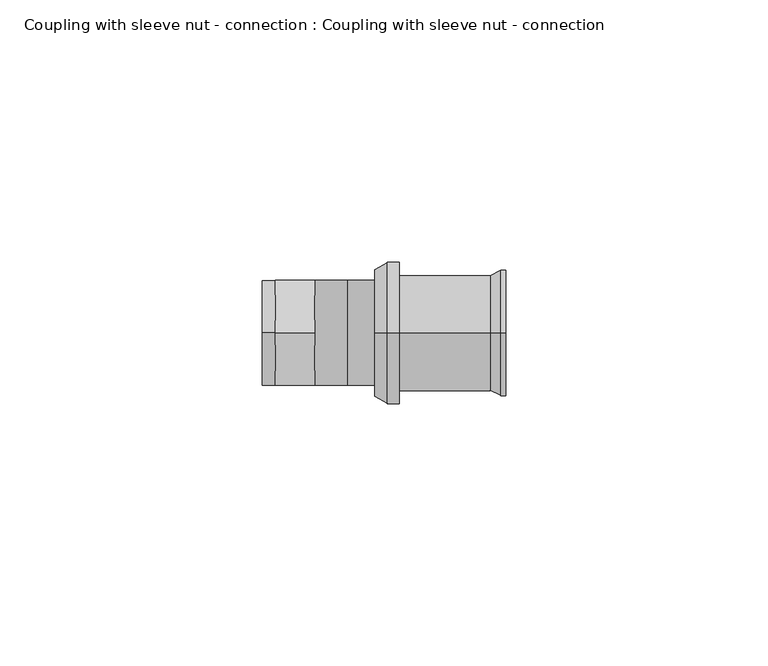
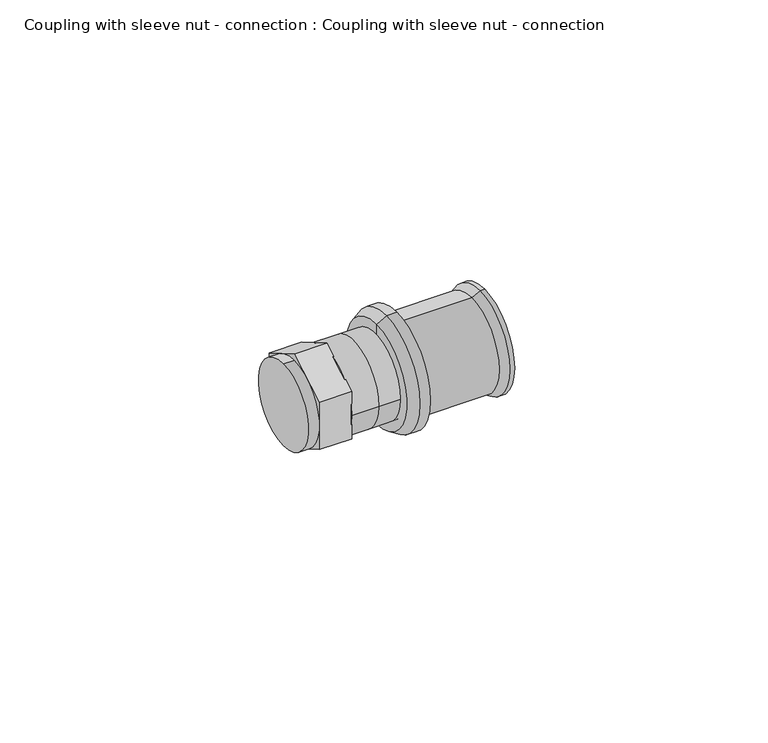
"""IFC4 building model written with IfcOpenShell, lengths in millimetres: pipe fitting geometry, Coupling with sleeve nut - connection : Coupling with sleeve nut - connection."""

from ifc_helpers import new_model, si_unit, point, frame, origin, origin_2d, place, context, project, spatial, polyline, circle_curve, trimmed, segment, composite_curve, outline, extrude, source, transform, mapped, element, save
from ifc_brep_helpers import plane_surface, cylinder_surface, revolved_surface, advanced_brep


def coupling_with_sleeve_nut_connection_coupling_with_sleeve_nut_056bb63b(model_context):
    return source(origin(), model_context, "Body", "SolidModel", [
        advanced_brep(
        [(5.25, 0.0, 0.0), (5.25, 0.0, 12.1432269), (5.25, 0.0, -12.1432269), (9.95, 0.0, -13.5), (9.95, 0.0, 13.5), (9.95, 0.0, 0.0), (7.6, 0.0, -13.5), (7.6, 0.0, 13.5)],
        [
            (0, 1),
            (1, 2, circle_curve(frame((5.25, 0.0, 0.0), z_axis=(-1.0, 0.0, 0.0), x_axis=(0.0, 0.0, 1.0)), 12.1432269)),
            (2, 0),
            (2, 1, circle_curve(frame((5.25, 0.0, 0.0), z_axis=(-1.0, 0.0, 0.0), x_axis=(0.0, 0.0, 1.0)), 12.1432269)),
            (3, 4, circle_curve(frame((9.95, 0.0, 0.0), z_axis=(1.0, 0.0, 0.0), x_axis=(0.0, 0.0, 1.0)), 13.5)),
            (4, 5),
            (5, 3),
            (4, 3, circle_curve(frame((9.95, 0.0, 0.0), z_axis=(1.0, 0.0, 0.0), x_axis=(0.0, 0.0, 1.0)), 13.5)),
            (6, 7, circle_curve(frame((7.6, 0.0, 0.0), z_axis=(1.0, 0.0, 0.0), x_axis=(0.0, 0.0, 1.0)), 13.5)),
            (7, 4),
            (3, 6),
            (7, 6, circle_curve(frame((7.6, 0.0, 0.0), z_axis=(1.0, 0.0, 0.0), x_axis=(0.0, 0.0, 1.0)), 13.5)),
            (1, 7),
            (6, 2),
        ],
        [
            plane_surface(frame((5.25, 0.0, 0.0), z_axis=(-1.0, 0.0, 0.0), x_axis=(0.0, 0.0, 1.0))),
            plane_surface(frame((9.95, 0.0, 0.0), z_axis=(1.0, 0.0, 0.0), x_axis=(0.0, 0.0, 1.0))),
            cylinder_surface(frame((6.25, 0.0, 0.0), z_axis=(-1.0, 0.0, 0.0), x_axis=(0.0, 0.0, 1.0)), 13.5),
            revolved_surface(polyline([(7.6, 0.0, 13.5), (5.25, 0.0, 12.1432269)]), (6.25, 0.0, 0.0), (-1.0, 0.0, 0.0)),
        ],
        [
            (0, [[1, 2, 3]]),
            (0, [[-3, 4, -1]]),
            (1, [[5, 6, 7]]),
            (1, [[8, -7, -6]]),
            (2, [[9, 10, -5, 11]]),
            (2, [[12, -11, -8, -10]]),
            (3, [[-2, 13, -9, 14]]),
            (3, [[-4, -14, -12, -13]]),
        ],
    ),
        advanced_brep(
        [(9.95, 0.0, -11.0), (9.95, 0.0, 11.0), (27.25, 0.0, 11.0), (27.25, 0.0, -11.0), (30.25, 0.0, -12.0), (30.25, 0.0, 12.0), (30.25, 0.0, 0.0), (9.95, 0.0, 0.0), (29.25, 0.0, -12.0), (29.25, 0.0, 12.0)],
        [
            (0, 1, circle_curve(frame((9.95, 0.0, 0.0), z_axis=(1.0, 0.0, 0.0), x_axis=(0.0, 0.0, 1.0)), 11.0)),
            (1, 2),
            (2, 3, circle_curve(frame((27.25, 0.0, 0.0), z_axis=(-1.0, 0.0, 0.0), x_axis=(0.0, 0.0, 1.0)), 11.0)),
            (3, 0),
            (1, 0, circle_curve(frame((9.95, 0.0, 0.0), z_axis=(1.0, 0.0, 0.0), x_axis=(0.0, 0.0, 1.0)), 11.0)),
            (3, 2, circle_curve(frame((27.25, 0.0, 0.0), z_axis=(-1.0, 0.0, 0.0), x_axis=(0.0, 0.0, 1.0)), 11.0)),
            (4, 5, circle_curve(frame((30.25, 0.0, 0.0), z_axis=(1.0, 0.0, 0.0), x_axis=(0.0, 0.0, 1.0)), 12.0)),
            (5, 6),
            (6, 4),
            (5, 4, circle_curve(frame((30.25, 0.0, 0.0), z_axis=(1.0, 0.0, 0.0), x_axis=(0.0, 0.0, 1.0)), 12.0)),
            (7, 1),
            (0, 7),
            (8, 9, circle_curve(frame((29.25, 0.0, 0.0), z_axis=(1.0, 0.0, 0.0), x_axis=(0.0, 0.0, 1.0)), 12.0)),
            (9, 5),
            (4, 8),
            (9, 8, circle_curve(frame((29.25, 0.0, 0.0), z_axis=(1.0, 0.0, 0.0), x_axis=(0.0, 0.0, 1.0)), 12.0)),
            (2, 9),
            (8, 3),
        ],
        [
            cylinder_surface(frame((-1905.5538476, 0.0, 0.0), z_axis=(-1.0, 0.0, 0.0), x_axis=(0.0, 0.0, 1.0)), 11.0),
            plane_surface(frame((30.25, 0.0, 0.0), z_axis=(1.0, 0.0, 0.0), x_axis=(0.0, 0.0, 1.0))),
            plane_surface(frame((9.95, 0.0, 0.0), z_axis=(-1.0, 0.0, 0.0), x_axis=(0.0, 0.0, 1.0))),
            cylinder_surface(frame((-1905.5538476, 0.0, 0.0), z_axis=(-1.0, 0.0, 0.0), x_axis=(0.0, 0.0, 1.0)), 12.0),
            revolved_surface(polyline([(29.25, 0.0, 12.0), (27.25, 0.0, 11.0)]), (-1905.5538476, 0.0, 0.0), (-1.0, 0.0, 0.0)),
        ],
        [
            (0, [[1, 2, 3, 4]]),
            (0, [[5, -4, 6, -2]]),
            (1, [[7, 8, 9]]),
            (1, [[10, -9, -8]]),
            (2, [[11, -1, 12]]),
            (2, [[-12, -5, -11]]),
            (3, [[13, 14, -7, 15]]),
            (3, [[16, -15, -10, -14]]),
            (4, [[-3, 17, -13, 18]]),
            (4, [[-6, -18, -16, -17]]),
        ],
    ),
        advanced_brep(
        [(-6.25, -10.0, 0.0), (-6.25, 10.0, 0.0), (0.0, -10.0, 0.0), (0.0, 10.0, 0.0), (6.25, -10.0, 0.0), (6.25, 10.0, 0.0)],
        [
            (0, 1, circle_curve(frame((-6.25, 0.0, 0.0), z_axis=(-1.0, 0.0, 0.0), x_axis=(0.0, 1.0, 0.0)), 10.0)),
            (1, 0, circle_curve(frame((-6.25, 0.0, 0.0), z_axis=(-1.0, 0.0, 0.0), x_axis=(0.0, 1.0, 0.0)), 10.0)),
            (0, 2),
            (2, 3, circle_curve(frame((0.0, 0.0, 0.0), z_axis=(-1.0, 0.0, 0.0), x_axis=(0.0, 1.0, 0.0)), 10.0)),
            (3, 1),
            (3, 2, circle_curve(frame((0.0, 0.0, 0.0), z_axis=(-1.0, 0.0, 0.0), x_axis=(0.0, 1.0, 0.0)), 10.0)),
            (4, 5, circle_curve(frame((6.25, 0.0, 0.0), z_axis=(1.0, 0.0, 0.0), x_axis=(0.0, 1.0, 0.0)), 10.0)),
            (5, 4, circle_curve(frame((6.25, 0.0, 0.0), z_axis=(1.0, 0.0, 0.0), x_axis=(0.0, 1.0, 0.0)), 10.0)),
            (2, 4),
            (5, 3),
        ],
        [
            plane_surface(frame((-6.25, 0.0, 0.0), z_axis=(-1.0, 0.0, 0.0), x_axis=(0.0, 0.0, 1.0))),
            cylinder_surface(frame((-6.25, 0.0, 0.0), z_axis=(-1.0, 0.0, 0.0), x_axis=(0.0, 1.0, 0.0)), 10.0),
            plane_surface(frame((6.25, 0.0, 0.0), z_axis=(1.0, 0.0, 0.0), x_axis=(0.0, 0.0, 1.0))),
            cylinder_surface(frame((0.0, 0.0, 0.0), z_axis=(-1.0, 0.0, 0.0), x_axis=(0.0, 1.0, 0.0)), 10.0),
        ],
        [
            (0, [[1, 2]]),
            (1, [[-1, 3, 4, 5]]),
            (1, [[-2, -5, 6, -3]]),
            (2, [[7, 8]]),
            (3, [[-4, 9, -8, 10]]),
            (3, [[-6, -10, -7, -9]]),
        ],
    ),
        extrude(outline(composite_curve([segment(trimmed(circle_curve(origin_2d(), 10.0), [point((0.0, -10.0))], [point((0.0, 10.0))], False, "CARTESIAN"), True, "CONTINUOUS"), segment(trimmed(circle_curve(origin_2d(), 10.0), [point((0.0, 10.0))], [point((0.0, -10.0))], False, "CARTESIAN"), True, "CONTINUOUS")], self_intersect=False)), frame((-16.25, 0.0, 0.0), z_axis=(1.0, 0.0, 0.0), x_axis=(0.0, 1.0, 0.0)), (0.0, 0.0, 1.0), 2.5),
        extrude(outline(polyline([(0.0, 11.5470054), (10.0, 5.7735027), (10.0, -5.7735027), (0.0, -11.5470054), (-10.0, -5.7735027), (-10.0, 5.7735027), (0.0, 11.5470054)])), frame((-13.75, 0.0, 0.0), z_axis=(1.0, 0.0, 0.0), x_axis=(0.0, 1.0, 0.0)), (0.0, 0.0, 1.0), 7.5),
    ])


if __name__ == "__main__":
    model = new_model("IFC4")
    model_context = context("Model", 3, world=origin())
    ifc_project = project(units=[si_unit("LENGTHUNIT", "METRE", prefix="MILLI")], contexts=[model_context])
    site = spatial("IfcSite", under=ifc_project)
    building = spatial("IfcBuilding", under=site)
    placement = place(None, origin())
    coupling_with_sleeve_nut_connection_coupling_with_sleeve_nut_shape = coupling_with_sleeve_nut_connection_coupling_with_sleeve_nut_056bb63b(model_context)
    element("IfcPipeFitting", 1, ObjectType="Coupling with sleeve nut - connection : Coupling with sleeve nut - connection", at=placement, inside=building, context=model_context, shape_type="MappedRepresentation", body=[
        mapped(coupling_with_sleeve_nut_connection_coupling_with_sleeve_nut_shape, transform((0.0, 0.0, 0.0), x_axis=(1.0, 0.0, 0.0), y_axis=(0.0, 1.0, 0.0), z_axis=(0.0, 0.0, 1.0))),
    ])
    save(model, "model.ifc")
